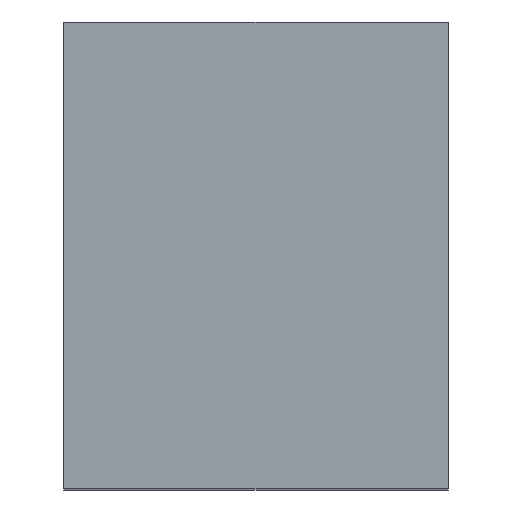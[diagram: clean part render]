
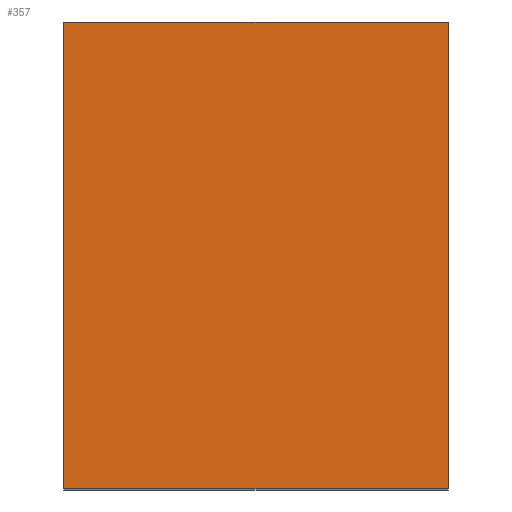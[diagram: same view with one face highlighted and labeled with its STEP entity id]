
A CAD part, top view. The second image highlights one B-rep face of the part: STEP entity #357.
In plain terms, the highlighted planar face has unit normal (0, 0, 1).
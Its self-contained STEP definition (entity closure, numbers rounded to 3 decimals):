
#43 = VERTEX_POINT('',#44);
#44 = CARTESIAN_POINT('',(-5.85,-7.1,25.));
#51 = PLANE('',#52);
#52 = AXIS2_PLACEMENT_3D('',#53,#54,#55);
#53 = CARTESIAN_POINT('',(-5.85,-7.1,0.));
#54 = DIRECTION('',(0.,1.,0.));
#55 = DIRECTION('',(1.,0.,0.));
#63 = PLANE('',#64);
#64 = AXIS2_PLACEMENT_3D('',#65,#66,#67);
#65 = CARTESIAN_POINT('',(-5.85,7.1,0.));
#66 = DIRECTION('',(1.,0.,-0.));
#67 = DIRECTION('',(0.,-1.,0.));
#75 = EDGE_CURVE('',#43,#76,#78,.T.);
#76 = VERTEX_POINT('',#77);
#77 = CARTESIAN_POINT('',(5.85,-7.1,25.));
#78 = SURFACE_CURVE('',#79,(#83,#90),.PCURVE_S1.);
#79 = LINE('',#80,#81);
#80 = CARTESIAN_POINT('',(-5.85,-7.1,25.));
#81 = VECTOR('',#82,1.);
#82 = DIRECTION('',(1.,0.,0.));
#83 = PCURVE('',#51,#84);
#84 = DEFINITIONAL_REPRESENTATION('',(#85),#89);
#85 = LINE('',#86,#87);
#86 = CARTESIAN_POINT('',(0.,-25.));
#87 = VECTOR('',#88,1.);
#88 = DIRECTION('',(1.,0.));
#89 = ( GEOMETRIC_REPRESENTATION_CONTEXT(2) 
PARAMETRIC_REPRESENTATION_CONTEXT() REPRESENTATION_CONTEXT('2D SPACE',''
  ) );
#90 = PCURVE('',#91,#96);
#91 = PLANE('',#92);
#92 = AXIS2_PLACEMENT_3D('',#93,#94,#95);
#93 = CARTESIAN_POINT('',(0.,0.,25.));
#94 = DIRECTION('',(0.,0.,1.));
#95 = DIRECTION('',(0.,1.,0.));
#96 = DEFINITIONAL_REPRESENTATION('',(#97),#101);
#97 = LINE('',#98,#99);
#98 = CARTESIAN_POINT('',(-7.1,5.85));
#99 = VECTOR('',#100,1.);
#100 = DIRECTION('',(0.,-1.));
#101 = ( GEOMETRIC_REPRESENTATION_CONTEXT(2) 
PARAMETRIC_REPRESENTATION_CONTEXT() REPRESENTATION_CONTEXT('2D SPACE',''
  ) );
#119 = PLANE('',#120);
#120 = AXIS2_PLACEMENT_3D('',#121,#122,#123);
#121 = CARTESIAN_POINT('',(5.85,-7.1,0.));
#122 = DIRECTION('',(-1.,0.,0.));
#123 = DIRECTION('',(0.,1.,0.));
#161 = EDGE_CURVE('',#76,#162,#164,.T.);
#162 = VERTEX_POINT('',#163);
#163 = CARTESIAN_POINT('',(5.85,7.1,25.));
#164 = SURFACE_CURVE('',#165,(#169,#176),.PCURVE_S1.);
#165 = LINE('',#166,#167);
#166 = CARTESIAN_POINT('',(5.85,-7.1,25.));
#167 = VECTOR('',#168,1.);
#168 = DIRECTION('',(0.,1.,0.));
#169 = PCURVE('',#119,#170);
#170 = DEFINITIONAL_REPRESENTATION('',(#171),#175);
#171 = LINE('',#172,#173);
#172 = CARTESIAN_POINT('',(0.,-25.));
#173 = VECTOR('',#174,1.);
#174 = DIRECTION('',(1.,0.));
#175 = ( GEOMETRIC_REPRESENTATION_CONTEXT(2) 
PARAMETRIC_REPRESENTATION_CONTEXT() REPRESENTATION_CONTEXT('2D SPACE',''
  ) );
#176 = PCURVE('',#91,#177);
#177 = DEFINITIONAL_REPRESENTATION('',(#178),#182);
#178 = LINE('',#179,#180);
#179 = CARTESIAN_POINT('',(-7.1,-5.85));
#180 = VECTOR('',#181,1.);
#181 = DIRECTION('',(1.,0.));
#182 = ( GEOMETRIC_REPRESENTATION_CONTEXT(2) 
PARAMETRIC_REPRESENTATION_CONTEXT() REPRESENTATION_CONTEXT('2D SPACE',''
  ) );
#200 = PLANE('',#201);
#201 = AXIS2_PLACEMENT_3D('',#202,#203,#204);
#202 = CARTESIAN_POINT('',(5.85,7.1,0.));
#203 = DIRECTION('',(0.,-1.,0.));
#204 = DIRECTION('',(-1.,0.,0.));
#237 = EDGE_CURVE('',#162,#238,#240,.T.);
#238 = VERTEX_POINT('',#239);
#239 = CARTESIAN_POINT('',(-5.85,7.1,25.));
#240 = SURFACE_CURVE('',#241,(#245,#252),.PCURVE_S1.);
#241 = LINE('',#242,#243);
#242 = CARTESIAN_POINT('',(5.85,7.1,25.));
#243 = VECTOR('',#244,1.);
#244 = DIRECTION('',(-1.,0.,0.));
#245 = PCURVE('',#200,#246);
#246 = DEFINITIONAL_REPRESENTATION('',(#247),#251);
#247 = LINE('',#248,#249);
#248 = CARTESIAN_POINT('',(0.,-25.));
#249 = VECTOR('',#250,1.);
#250 = DIRECTION('',(1.,0.));
#251 = ( GEOMETRIC_REPRESENTATION_CONTEXT(2) 
PARAMETRIC_REPRESENTATION_CONTEXT() REPRESENTATION_CONTEXT('2D SPACE',''
  ) );
#252 = PCURVE('',#91,#253);
#253 = DEFINITIONAL_REPRESENTATION('',(#254),#258);
#254 = LINE('',#255,#256);
#255 = CARTESIAN_POINT('',(7.1,-5.85));
#256 = VECTOR('',#257,1.);
#257 = DIRECTION('',(0.,1.));
#258 = ( GEOMETRIC_REPRESENTATION_CONTEXT(2) 
PARAMETRIC_REPRESENTATION_CONTEXT() REPRESENTATION_CONTEXT('2D SPACE',''
  ) );
#308 = EDGE_CURVE('',#238,#43,#309,.T.);
#309 = SURFACE_CURVE('',#310,(#314,#321),.PCURVE_S1.);
#310 = LINE('',#311,#312);
#311 = CARTESIAN_POINT('',(-5.85,7.1,25.));
#312 = VECTOR('',#313,1.);
#313 = DIRECTION('',(0.,-1.,0.));
#314 = PCURVE('',#63,#315);
#315 = DEFINITIONAL_REPRESENTATION('',(#316),#320);
#316 = LINE('',#317,#318);
#317 = CARTESIAN_POINT('',(0.,-25.));
#318 = VECTOR('',#319,1.);
#319 = DIRECTION('',(1.,0.));
#320 = ( GEOMETRIC_REPRESENTATION_CONTEXT(2) 
PARAMETRIC_REPRESENTATION_CONTEXT() REPRESENTATION_CONTEXT('2D SPACE',''
  ) );
#321 = PCURVE('',#91,#322);
#322 = DEFINITIONAL_REPRESENTATION('',(#323),#327);
#323 = LINE('',#324,#325);
#324 = CARTESIAN_POINT('',(7.1,5.85));
#325 = VECTOR('',#326,1.);
#326 = DIRECTION('',(-1.,-0.));
#327 = ( GEOMETRIC_REPRESENTATION_CONTEXT(2) 
PARAMETRIC_REPRESENTATION_CONTEXT() REPRESENTATION_CONTEXT('2D SPACE',''
  ) );
#357 = ADVANCED_FACE('',(#358),#91,.T.);
#358 = FACE_BOUND('',#359,.T.);
#359 = EDGE_LOOP('',(#360,#361,#362,#363));
#360 = ORIENTED_EDGE('',*,*,#75,.T.);
#361 = ORIENTED_EDGE('',*,*,#161,.T.);
#362 = ORIENTED_EDGE('',*,*,#237,.T.);
#363 = ORIENTED_EDGE('',*,*,#308,.T.);
